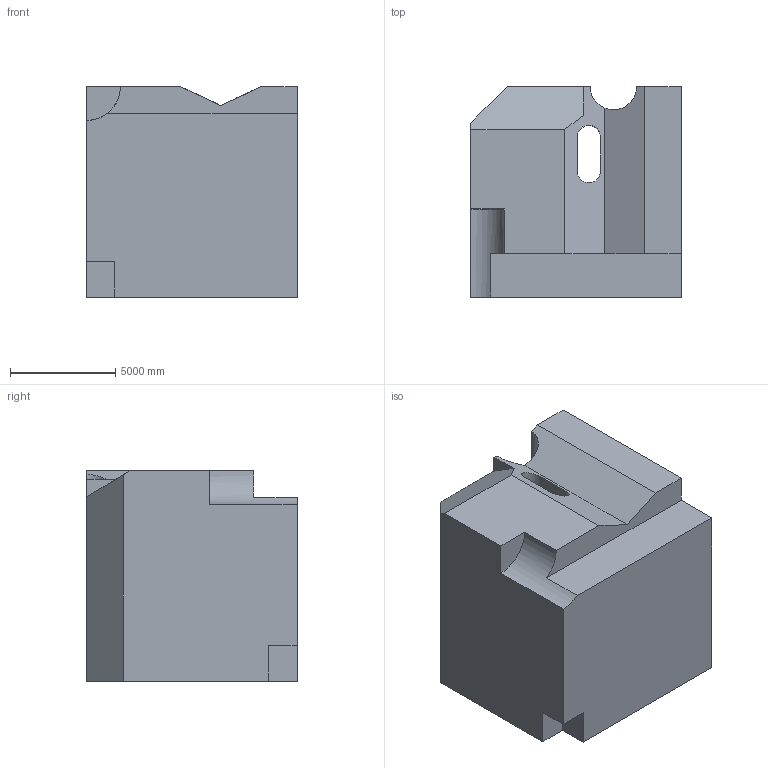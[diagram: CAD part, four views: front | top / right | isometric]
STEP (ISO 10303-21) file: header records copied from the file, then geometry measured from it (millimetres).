
FILE_DESCRIPTION (( 'STEP AP203' ), '1' );
FILE_NAME ('743.STEP', '2022-07-29T12:53:44', ( 'user' ), ( '' ), 'SwSTEP 2.0', 'SolidWorks 2021', '' );
FILE_SCHEMA (( 'CONFIG_CONTROL_DESIGN' ));
Length unit declared in the file: centimetre
Products named in the file (1): 743
Bounding box: 10000 x 10000 x 10000 mm (x, y, z)
Volume: 888553080748 mm3; surface area: 641133742.7 mm2
Topology: 1 solids, 1 shells, 25 faces, 69 edges, 46 vertices
Faces by surface type: plane 21, cylinder 4
Entity records: 870 total; most frequent: CARTESIAN_POINT 153, ORIENTED_EDGE 138, DIRECTION 123, EDGE_CURVE 69, VECTOR 59, LINE 59, VERTEX_POINT 46, AXIS2_PLACEMENT_3D 32
